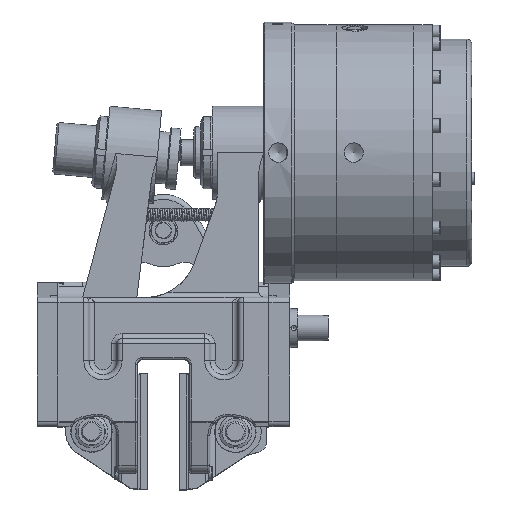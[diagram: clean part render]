
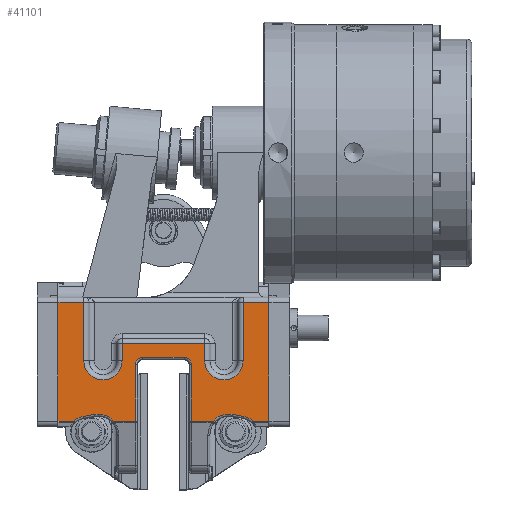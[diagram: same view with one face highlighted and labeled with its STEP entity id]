
A CAD part, top view. The second image highlights one B-rep face of the part: STEP entity #41101.
In plain terms, the highlighted planar face has unit normal (0, 0, 1).
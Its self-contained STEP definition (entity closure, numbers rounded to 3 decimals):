
#2753=PLANE('',#45456);
#4801=FACE_OUTER_BOUND('',#7270,.T.);
#7270=EDGE_LOOP('',(#35572,#35573,#35574,#35575,#35576,#35577,#35578,#35579,
#35580,#35581,#35582,#35583,#35584,#35585,#35586,#35587,#35588,#35589,#35590,
#35591,#35592,#35593,#35594,#35595,#35596,#35597));
#9702=LINE('',#78439,#12350);
#9854=LINE('',#79017,#12502);
#10095=LINE('',#80069,#12743);
#10097=LINE('',#80086,#12745);
#10100=LINE('',#80098,#12748);
#10102=LINE('',#80108,#12750);
#10104=LINE('',#80114,#12752);
#10105=LINE('',#80117,#12753);
#10107=LINE('',#80128,#12755);
#10137=LINE('',#80447,#12785);
#10138=LINE('',#80455,#12786);
#10139=LINE('',#80463,#12787);
#10145=LINE('',#80493,#12793);
#10146=LINE('',#80501,#12794);
#10150=LINE('',#80566,#12798);
#10157=LINE('',#80647,#12805);
#10158=LINE('',#80653,#12806);
#10159=LINE('',#80655,#12807);
#12350=VECTOR('',#54637,10.);
#12502=VECTOR('',#55185,10.);
#12743=VECTOR('',#56026,5.);
#12745=VECTOR('',#56046,10.);
#12748=VECTOR('',#56061,10.);
#12750=VECTOR('',#56073,10.);
#12752=VECTOR('',#56079,5.);
#12753=VECTOR('',#56082,10.);
#12755=VECTOR('',#56096,10.);
#12785=VECTOR('',#56238,10.);
#12786=VECTOR('',#56249,10.);
#12787=VECTOR('',#56260,10.);
#12793=VECTOR('',#56292,10.);
#12794=VECTOR('',#56295,10.);
#12798=VECTOR('',#56333,10.);
#12805=VECTOR('',#56364,10.);
#12806=VECTOR('',#56369,10.);
#12807=VECTOR('',#56372,10.);
#15228=CIRCLE('',#45329,18.5);
#15236=CIRCLE('',#45343,18.5);
#15268=CIRCLE('',#45405,7.);
#15271=CIRCLE('',#45410,7.);
#15286=CIRCLE('',#45441,20.);
#15289=CIRCLE('',#45446,18.);
#15293=CIRCLE('',#45457,18.);
#15294=CIRCLE('',#45458,20.);
#18564=VERTEX_POINT('',#78432);
#18566=VERTEX_POINT('',#78438);
#18751=VERTEX_POINT('',#79012);
#18752=VERTEX_POINT('',#79016);
#19031=VERTEX_POINT('',#80068);
#19033=VERTEX_POINT('',#80074);
#19037=VERTEX_POINT('',#80085);
#19039=VERTEX_POINT('',#80091);
#19041=VERTEX_POINT('',#80100);
#19045=VERTEX_POINT('',#80112);
#19046=VERTEX_POINT('',#80116);
#19048=VERTEX_POINT('',#80122);
#19078=VERTEX_POINT('',#80442);
#19079=VERTEX_POINT('',#80446);
#19080=VERTEX_POINT('',#80450);
#19081=VERTEX_POINT('',#80454);
#19082=VERTEX_POINT('',#80458);
#19083=VERTEX_POINT('',#80462);
#19090=VERTEX_POINT('',#80488);
#19091=VERTEX_POINT('',#80495);
#19095=VERTEX_POINT('',#80560);
#19096=VERTEX_POINT('',#80564);
#19102=VERTEX_POINT('',#80642);
#19103=VERTEX_POINT('',#80649);
#19104=VERTEX_POINT('',#80650);
#19105=VERTEX_POINT('',#80652);
#23855=EDGE_CURVE('',#18566,#18564,#9702,.T.);
#24126=EDGE_CURVE('',#18751,#18752,#9854,.T.);
#24564=EDGE_CURVE('',#18564,#19031,#10095,.T.);
#24572=EDGE_CURVE('',#19031,#19037,#10097,.T.);
#24575=EDGE_CURVE('',#19037,#19039,#15228,.T.);
#24579=EDGE_CURVE('',#19039,#19033,#10100,.T.);
#24584=EDGE_CURVE('',#19033,#19041,#10102,.T.);
#24587=EDGE_CURVE('',#19045,#18751,#10104,.T.);
#24588=EDGE_CURVE('',#19041,#19046,#10105,.T.);
#24591=EDGE_CURVE('',#19046,#19048,#15236,.T.);
#24594=EDGE_CURVE('',#19048,#19045,#10107,.T.);
#24658=EDGE_CURVE('',#19078,#19079,#10137,.T.);
#24660=EDGE_CURVE('',#19079,#19080,#15268,.T.);
#24662=EDGE_CURVE('',#19080,#19081,#10138,.T.);
#24664=EDGE_CURVE('',#19081,#19082,#15271,.T.);
#24666=EDGE_CURVE('',#19082,#19083,#10139,.T.);
#24680=EDGE_CURVE('',#18752,#19090,#10145,.T.);
#24682=EDGE_CURVE('',#19091,#19078,#10146,.T.);
#24694=EDGE_CURVE('',#19095,#19091,#15286,.T.);
#24696=EDGE_CURVE('',#19096,#19095,#10150,.T.);
#24698=EDGE_CURVE('',#19090,#19096,#15289,.T.);
#24711=EDGE_CURVE('',#19083,#19102,#10157,.T.);
#24712=EDGE_CURVE('',#19103,#19104,#15293,.T.);
#24713=EDGE_CURVE('',#19105,#19103,#10158,.T.);
#24714=EDGE_CURVE('',#19102,#19105,#15294,.T.);
#24715=EDGE_CURVE('',#19104,#18566,#10159,.T.);
#35572=ORIENTED_EDGE('',*,*,#24712,.F.);
#35573=ORIENTED_EDGE('',*,*,#24713,.F.);
#35574=ORIENTED_EDGE('',*,*,#24714,.F.);
#35575=ORIENTED_EDGE('',*,*,#24711,.F.);
#35576=ORIENTED_EDGE('',*,*,#24666,.F.);
#35577=ORIENTED_EDGE('',*,*,#24664,.F.);
#35578=ORIENTED_EDGE('',*,*,#24662,.F.);
#35579=ORIENTED_EDGE('',*,*,#24660,.F.);
#35580=ORIENTED_EDGE('',*,*,#24658,.F.);
#35581=ORIENTED_EDGE('',*,*,#24682,.F.);
#35582=ORIENTED_EDGE('',*,*,#24694,.F.);
#35583=ORIENTED_EDGE('',*,*,#24696,.F.);
#35584=ORIENTED_EDGE('',*,*,#24698,.F.);
#35585=ORIENTED_EDGE('',*,*,#24680,.F.);
#35586=ORIENTED_EDGE('',*,*,#24126,.F.);
#35587=ORIENTED_EDGE('',*,*,#24587,.F.);
#35588=ORIENTED_EDGE('',*,*,#24594,.F.);
#35589=ORIENTED_EDGE('',*,*,#24591,.F.);
#35590=ORIENTED_EDGE('',*,*,#24588,.F.);
#35591=ORIENTED_EDGE('',*,*,#24584,.F.);
#35592=ORIENTED_EDGE('',*,*,#24579,.F.);
#35593=ORIENTED_EDGE('',*,*,#24575,.F.);
#35594=ORIENTED_EDGE('',*,*,#24572,.F.);
#35595=ORIENTED_EDGE('',*,*,#24564,.F.);
#35596=ORIENTED_EDGE('',*,*,#23855,.F.);
#35597=ORIENTED_EDGE('',*,*,#24715,.F.);
#41101=ADVANCED_FACE('',(#4801),#2753,.T.);
#45329=AXIS2_PLACEMENT_3D('',#80092,#56052,#56053);
#45343=AXIS2_PLACEMENT_3D('',#80123,#56088,#56089);
#45405=AXIS2_PLACEMENT_3D('',#80451,#56243,#56244);
#45410=AXIS2_PLACEMENT_3D('',#80459,#56254,#56255);
#45441=AXIS2_PLACEMENT_3D('',#80562,#56327,#56328);
#45446=AXIS2_PLACEMENT_3D('',#80569,#56338,#56339);
#45456=AXIS2_PLACEMENT_3D('',#80648,#56365,#56366);
#45457=AXIS2_PLACEMENT_3D('',#80651,#56367,#56368);
#45458=AXIS2_PLACEMENT_3D('',#80654,#56370,#56371);
#54637=DIRECTION('',(0.,1.,0.));
#55185=DIRECTION('',(0.,-1.,0.));
#56026=DIRECTION('',(1.,0.,0.));
#56046=DIRECTION('',(0.,-1.,0.));
#56052=DIRECTION('center_axis',(0.,0.,
1.));
#56053=DIRECTION('ref_axis',(0.,-1.,0.));
#56061=DIRECTION('',(0.,1.,0.));
#56073=DIRECTION('',(1.,0.,0.));
#56079=DIRECTION('',(1.,0.,0.));
#56082=DIRECTION('',(0.,-1.,0.));
#56088=DIRECTION('center_axis',(0.,0.,
1.));
#56089=DIRECTION('ref_axis',(0.,-1.,0.));
#56096=DIRECTION('',(0.,1.,0.));
#56238=DIRECTION('',(0.,1.,0.));
#56243=DIRECTION('center_axis',(0.,0.,
1.));
#56244=DIRECTION('ref_axis',(0.707,0.707,0.));
#56249=DIRECTION('',(-1.,0.,0.));
#56254=DIRECTION('center_axis',(0.,0.,
1.));
#56255=DIRECTION('ref_axis',(-0.707,0.707,0.));
#56260=DIRECTION('',(0.,-1.,0.));
#56292=DIRECTION('',(-1.,0.,0.));
#56295=DIRECTION('',(-1.,0.,0.));
#56327=DIRECTION('center_axis',(0.,0.,
1.));
#56328=DIRECTION('ref_axis',(-0.29,0.957,0.));
#56333=DIRECTION('',(-0.985,0.174,0.));
#56338=DIRECTION('center_axis',(0.,0.,
1.));
#56339=DIRECTION('ref_axis',(0.388,0.922,0.));
#56364=DIRECTION('',(-1.,0.,0.));
#56365=DIRECTION('center_axis',(0.,0.,
1.));
#56366=DIRECTION('ref_axis',(1.,0.,0.));
#56367=DIRECTION('center_axis',(0.,0.,
1.));
#56368=DIRECTION('ref_axis',(-0.388,0.922,0.));
#56369=DIRECTION('',(-0.985,-0.174,0.));
#56370=DIRECTION('center_axis',(0.,0.,
1.));
#56371=DIRECTION('ref_axis',(0.29,0.957,0.));
#56372=DIRECTION('',(-1.,0.,0.));
#78432=CARTESIAN_POINT('',(-102.,165.,285.));
#78438=CARTESIAN_POINT('',(-102.,50.,285.));
#78439=CARTESIAN_POINT('',(-102.,165.,285.));
#79012=CARTESIAN_POINT('',(102.,165.,285.));
#79016=CARTESIAN_POINT('',(102.,50.,285.));
#79017=CARTESIAN_POINT('',(102.,165.,285.));
#80068=CARTESIAN_POINT('',(-77.,165.,285.));
#80069=CARTESIAN_POINT('',(102.,165.,285.));
#80074=CARTESIAN_POINT('',(-40.,125.,285.));
#80085=CARTESIAN_POINT('',(-77.,108.5,285.));
#80086=CARTESIAN_POINT('',(-77.,99.315,285.));
#80091=CARTESIAN_POINT('',(-40.,108.5,285.));
#80092=CARTESIAN_POINT('Origin',(-58.5,108.5,285.));
#80098=CARTESIAN_POINT('',(-40.,107.565,285.));
#80100=CARTESIAN_POINT('',(40.,125.,285.));
#80108=CARTESIAN_POINT('',(20.,125.,285.));
#80112=CARTESIAN_POINT('',(77.,165.,285.));
#80114=CARTESIAN_POINT('',(0.,165.,285.));
#80116=CARTESIAN_POINT('',(40.,108.5,285.));
#80117=CARTESIAN_POINT('',(40.,99.315,285.));
#80122=CARTESIAN_POINT('',(77.,108.5,285.));
#80123=CARTESIAN_POINT('Origin',(58.5,108.5,285.));
#80128=CARTESIAN_POINT('',(77.,127.565,285.));
#80442=CARTESIAN_POINT('',(27.,50.,285.));
#80446=CARTESIAN_POINT('',(27.,105.,285.));
#80447=CARTESIAN_POINT('',(27.,97.565,285.));
#80450=CARTESIAN_POINT('',(20.,112.,285.));
#80451=CARTESIAN_POINT('Origin',(20.,105.,285.));
#80454=CARTESIAN_POINT('',(-20.,112.,285.));
#80455=CARTESIAN_POINT('',(-10.,112.,285.));
#80458=CARTESIAN_POINT('',(-27.,105.,285.));
#80459=CARTESIAN_POINT('Origin',(-20.,105.,285.));
#80462=CARTESIAN_POINT('',(-27.,50.,285.));
#80463=CARTESIAN_POINT('',(-27.,45.065,285.));
#80488=CARTESIAN_POINT('',(86.95,50.,285.));
#80493=CARTESIAN_POINT('',(-102.,50.,285.));
#80495=CARTESIAN_POINT('',(47.801,50.,285.));
#80501=CARTESIAN_POINT('',(-102.,50.,285.));
#80560=CARTESIAN_POINT('',(66.478,56.695,285.));
#80562=CARTESIAN_POINT('Origin',(63.,37.,285.));
#80564=CARTESIAN_POINT('',(77.63,54.726,285.));
#80566=CARTESIAN_POINT('',(31.381,62.893,285.));
#80569=CARTESIAN_POINT('Origin',(74.5,37.,285.));
#80642=CARTESIAN_POINT('',(-47.801,50.,285.));
#80647=CARTESIAN_POINT('',(-102.,50.,285.));
#80648=CARTESIAN_POINT('Origin',(0.,90.129,
285.));
#80649=CARTESIAN_POINT('',(-77.63,54.726,285.));
#80650=CARTESIAN_POINT('',(-86.95,50.,285.));
#80651=CARTESIAN_POINT('Origin',(-74.5,37.,285.));
#80652=CARTESIAN_POINT('',(-66.478,56.695,285.));
#80653=CARTESIAN_POINT('',(-36.958,61.909,285.));
#80654=CARTESIAN_POINT('Origin',(-63.,37.,285.));
#80655=CARTESIAN_POINT('',(-102.,50.,285.));
